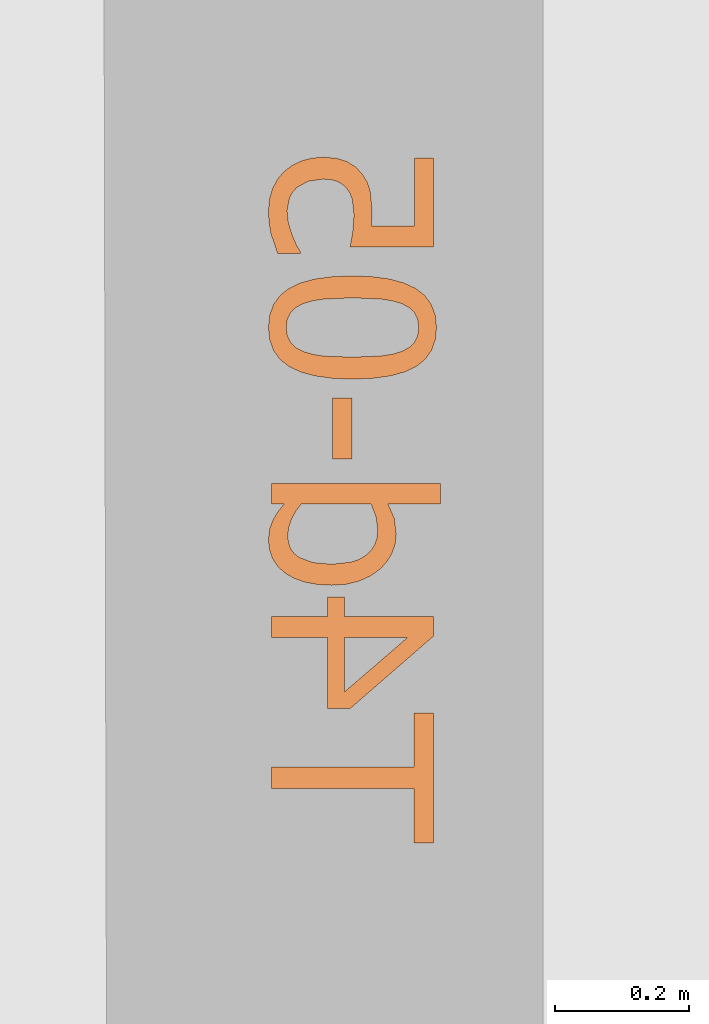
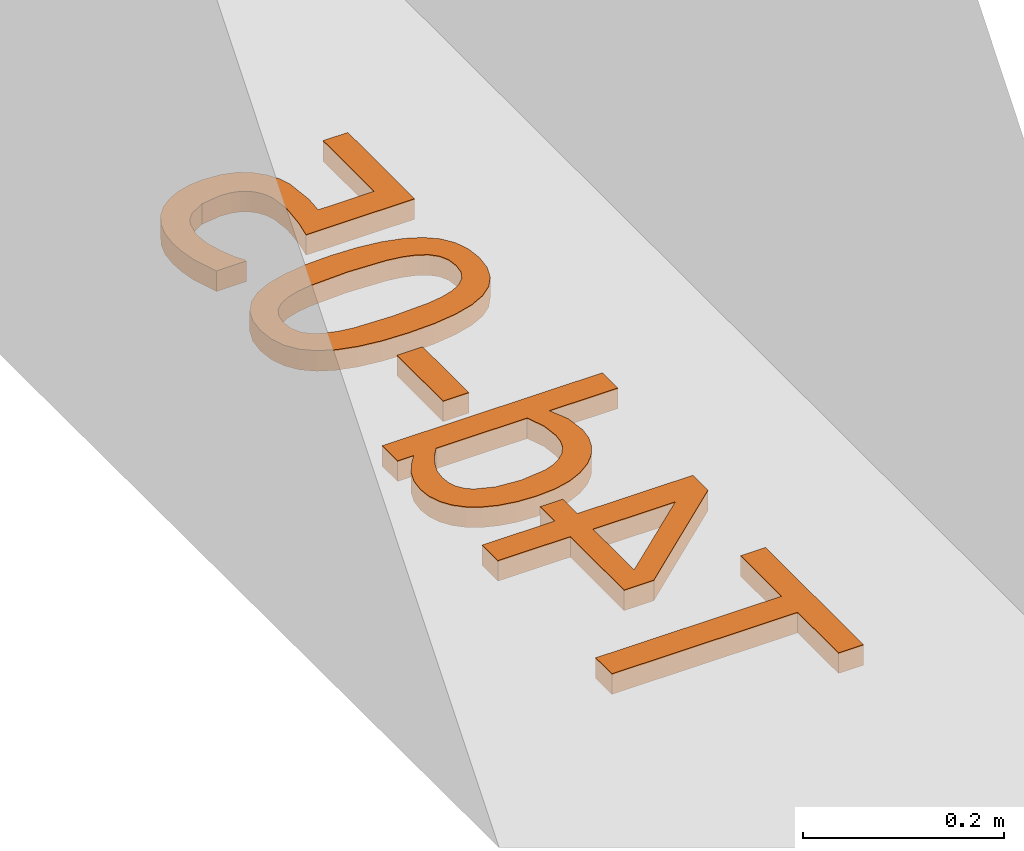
# Not in any storey, part 19 of 22: 1 proxy.
"""IFC4 model written with IfcOpenShell, lengths in metres."""

import ifcopenshell
import ifcopenshell.guid

model = None  # the IFC model being written
_history = None  # IfcOwnerHistory: only IFC2X3 demands one
_inside = {}  # id of a spatial element -> (the spatial element, [elements in it])
_under = {}  # id of a project, library or spatial element -> (it, [spatial elements below it])
_declared = {}  # id of a project -> (the project, [libraries it declares])
_typed = {}  # id of a type object -> (the type object, [elements of that type])
_made_of = {}  # id of a material, layer set ... -> (it, [elements and type objects made of it])


def new_model(schema):
    """Start an empty IFC model of exactly this schema.

    Asked for "IFC4X3", IfcOpenShell would pick the latest addendum, in which some entities
    have other attributes; the version numbers below select the first issue.
    IFC2X3 requires an IfcOwnerHistory on every rooted entity: one is made here for all.
    """
    global model, _history
    if schema == "IFC4X3":
        model = ifcopenshell.file(schema_version=(4, 3, 0, 0))
    else:
        model = ifcopenshell.file(schema=schema)
    _inside.clear()
    _under.clear()
    _declared.clear()
    _typed.clear()
    _made_of.clear()
    _history = None
    if model.schema == "IFC2X3":
        org = make("IfcOrganization", Name="unknown")
        user = make(
            "IfcPersonAndOrganization",
            ThePerson=make("IfcPerson", FamilyName="unknown"),
            TheOrganization=org,
        )
        app = make(
            "IfcApplication",
            ApplicationDeveloper=org,
            Version="unknown",
            ApplicationFullName="unknown",
            ApplicationIdentifier="unknown",
        )
        _history = make(
            "IfcOwnerHistory",
            OwningUser=user,
            OwningApplication=app,
            ChangeAction="ADDED",
            CreationDate=0,
        )
    return model


def make(cls, **values):
    """One entity of the class cls with the attributes given. An attribute that is None is left unset."""
    return model.create_entity(
        cls, **{name: value for name, value in values.items() if value is not None}
    )


def rooted(cls, **values):
    """An entity with a GlobalId (a new one), such as an element, a storey or a relation."""
    return make(cls, GlobalId=ifcopenshell.guid.new(), OwnerHistory=_history, **values)


def si_unit(unit_type, name, prefix=None):
    """IfcSIUnit, for example si_unit("LENGTHUNIT", "METRE", prefix="MILLI")."""
    return make("IfcSIUnit", UnitType=unit_type, Prefix=prefix, Name=name)


def assignment(units):
    """IfcUnitAssignment: the units of a project."""
    return None if units is None else make("IfcUnitAssignment", Units=units)


def point(xyz):
    """IfcCartesianPoint."""
    return None if xyz is None else make("IfcCartesianPoint", Coordinates=xyz)


def direction(xyz):
    """IfcDirection."""
    return None if xyz is None else make("IfcDirection", DirectionRatios=xyz)


def frame(location, z_axis=None, x_axis=None):
    """IfcAxis2Placement3D, a coordinate frame: its origin and axes. An axis left out is left unset."""
    return make(
        "IfcAxis2Placement3D",
        Location=point(location),
        Axis=direction(z_axis),
        RefDirection=direction(x_axis),
    )


def origin_with_axes():
    """The frame at (0, 0, 0) with the z axis (0, 0, 1) and the x axis (1, 0, 0) written out."""
    return frame((0.0, 0.0, 0.0), z_axis=(0.0, 0.0, 1.0), x_axis=(1.0, 0.0, 0.0))


def place(relative_to, where):
    """IfcLocalPlacement: puts the frame where relative to a parent placement (None: the world)."""
    return make(
        "IfcLocalPlacement", PlacementRelTo=relative_to, RelativePlacement=where
    )


def context(
    kind, dimensions, precision=None, world=None, true_north=None, identifier=None
):
    """IfcGeometricRepresentationContext, for example the 3D "Model" context."""
    return make(
        "IfcGeometricRepresentationContext",
        ContextIdentifier=identifier,
        ContextType=kind,
        CoordinateSpaceDimension=dimensions,
        Precision=precision,
        WorldCoordinateSystem=world,
        TrueNorth=true_north,
    )


def subcontext(parent, identifier, kind, view, scale=None):
    """IfcGeometricRepresentationSubContext, for example "Body" below "Model"."""
    return make(
        "IfcGeometricRepresentationSubContext",
        ContextIdentifier=identifier,
        ContextType=kind,
        ParentContext=parent,
        TargetScale=scale,
        TargetView=view,
    )


def project(units=None, contexts=None):
    """IfcProject with its units and contexts."""
    return rooted(
        "IfcProject",
        Name="project",
        RepresentationContexts=contexts,
        UnitsInContext=assignment(units),
    )


def faces_of(points, faces, orient=None, outer=None):
    """IfcFace entities. A face is a list of loops; a loop is a list of indices into points, from 0.

    orient and outer hold one flag for each loop. By default every Orientation is true, the
    first loop of a face is its IfcFaceOuterBound and the others are IfcFaceBound.
    """
    made = []
    for i, loops in enumerate(faces):
        bounds = []
        for j, loop in enumerate(loops):
            is_outer = j == 0 if outer is None else outer[i][j]
            bounds.append(
                make(
                    "IfcFaceOuterBound" if is_outer else "IfcFaceBound",
                    Bound=make("IfcPolyLoop", Polygon=[points[k] for k in loop]),
                    Orientation=True if orient is None else orient[i][j],
                )
            )
        made.append(make("IfcFace", Bounds=bounds))
    return made


def faceted_brep(points, faces, orient=None, outer=None, voids=None):
    """IfcFacetedBrep: a solid bounded by flat faces; with voids (closed shells), ...WithVoids."""
    shared = [point(p) for p in points]
    hull = make("IfcClosedShell", CfsFaces=faces_of(shared, faces, orient, outer))
    if voids is None:
        return make("IfcFacetedBrep", Outer=hull)
    return make(
        "IfcFacetedBrepWithVoids",
        Outer=hull,
        Voids=[
            make(cls, CfsFaces=faces_of(shared, fs, o, b)) for cls, fs, o, b in voids
        ],
    )


def shape(context_of_items, identifier, shape_type, items):
    """IfcShapeRepresentation: the items that make up one representation, for example the "Body"."""
    return make(
        "IfcShapeRepresentation",
        ContextOfItems=context_of_items,
        RepresentationIdentifier=identifier,
        RepresentationType=shape_type,
        Items=items,
    )


def made_of(thing, what):
    """Note that an element or type object is made of a material, layer set ...; save() writes the relation."""
    if what is not None:
        _made_of.setdefault(what.id(), (what, []))[1].append(thing)
    return thing


def element(
    cls,
    number,
    at=None,
    inside=None,
    cuts=None,
    type_object=None,
    material=None,
    context=None,
    identifier="Body",
    shape_type=None,
    held_by="IfcProductDefinitionShape",
    body=None,
    shapes=None,
    **own,
):
    """One element of the class cls, such as IfcWall. Its Tag is "e" and its number.

    at: its placement. inside: the storey or other place that contains it. cuts: it is an
    opening in that element (IfcRelVoidsElement). A single representation is given by context,
    identifier, shape_type and body (its items); several are given by shapes. held_by: the class
    of the entity that holds the representations. save() writes the other relations.
    """
    e = rooted(cls, Tag="e%d" % number, ObjectPlacement=at, **own)
    if body is not None:
        shapes = [shape(context, identifier, shape_type, body)]
    if shapes is not None:
        e.Representation = make(held_by, Representations=shapes)
    if inside is not None:
        _inside.setdefault(inside.id(), (inside, []))[1].append(e)
    if cuts is not None:
        rooted(
            "IfcRelVoidsElement", RelatingBuildingElement=cuts, RelatedOpeningElement=e
        )
    if type_object is not None:
        _typed.setdefault(type_object.id(), (type_object, []))[1].append(e)
    return made_of(e, material)


def aggregate(whole, parts):
    """IfcRelAggregates: a whole, such as a stair, and the parts it consists of."""
    return rooted("IfcRelAggregates", RelatingObject=whole, RelatedObjects=parts)


def save(model, path):
    """Write the relations noted so far, then the file.

    IfcRelAggregates (storeys below a building ...), IfcRelContainedInSpatialStructure (elements
    in a storey), IfcRelDefinesByType, IfcRelAssociatesMaterial and IfcRelDeclares: one each for
    every whole, place, type object, material and project.
    """
    for whole, parts in _under.values():
        aggregate(whole, parts)
    for where, things in _inside.values():
        rooted(
            "IfcRelContainedInSpatialStructure",
            RelatedElements=things,
            RelatingStructure=where,
        )
    for kind, things in _typed.values():
        rooted("IfcRelDefinesByType", RelatedObjects=things, RelatingType=kind)
    for what, things in _made_of.values():
        rooted("IfcRelAssociatesMaterial", RelatedObjects=things, RelatingMaterial=what)
    for by, libraries in _declared.values():
        rooted("IfcRelDeclares", RelatingContext=by, RelatedDefinitions=libraries)
    model.write(path)


model = new_model("IFC4")

# Units and contexts
model_context = context("Model", 3, precision=1e-05, world=origin_with_axes(), true_north=direction((1.0, 0.0)))
body_context = subcontext(model_context, "Body", "Model", "MODEL_VIEW")
ifc_project = project(units=[si_unit("LENGTHUNIT", "METRE"), si_unit("AREAUNIT", "SQUARE_METRE"), si_unit("VOLUMEUNIT", "CUBIC_METRE"), si_unit("MASSUNIT", "GRAM", prefix="KILO"), si_unit("TIMEUNIT", "SECOND"), si_unit("PLANEANGLEUNIT", "RADIAN"), si_unit("SOLIDANGLEUNIT", "STERADIAN")], contexts=[model_context])

# Proxy
proxy_placement = place(None, origin_with_axes())
element("IfcBuildingElementProxy", 1, at=proxy_placement, Name="Undefined", PredefinedType="NOTDEFINED", context=body_context, shape_type="AdvancedBrep", body=[
    faceted_brep([(153.331718, 26.553356, -0.05), (153.544682, 26.553356, -0.05), (153.544682, 26.472258, -0.05), (153.573229, 26.472258, -0.05), (153.573229, 26.66657, -0.05), (153.544682, 26.66657, -0.05), (153.544682, 26.585471, -0.05), (153.331718, 26.585471, -0.05), (153.414763, 26.839471, -0.05), (153.414763, 26.810762, -0.05), (153.331718, 26.810762, -0.05), (153.331718, 26.779621, -0.05), (153.414763, 26.779621, -0.05), (153.414763, 26.672895, -0.05), (153.448824, 26.672895, -0.05), (153.573229, 26.780918, -0.05), (153.573229, 26.810762, -0.05), (153.440714, 26.810762, -0.05), (153.440714, 26.839471, -0.05), (153.440714, 26.779621, -0.05), (153.535113, 26.779621, -0.05), (153.440714, 26.698198, -0.05), (153.331718, 27.009291, -0.05), (153.331718, 26.978798, -0.05), (153.350209, 26.978798, -0.05), (153.340315, 26.966471, -0.05), (153.333178, 26.954307, -0.05), (153.328393, 26.940844, -0.05), (153.32669, 26.924625, -0.05), (153.328231, 26.910412, -0.05), (153.332854, 26.897294, -0.05), (153.340436, 26.885677, -0.05), (153.350857, 26.875966, -0.05), (153.364259, 26.868058, -0.05), (153.380458, 26.862179, -0.05), (153.399374, 26.858529, -0.05), (153.420926, 26.857313, -0.05), (153.443168, 26.858854, -0.05), (153.462205, 26.863476, -0.05), (153.478526, 26.870816, -0.05), (153.492617, 26.880507, -0.05), (153.50318, 26.891435, -0.05), (153.511189, 26.904431, -0.05), (153.516237, 26.918806, -0.05), (153.51792, 26.93387, -0.05), (153.514919, 26.95755, -0.05), (153.505593, 26.978798, -0.05), (153.584096, 26.978798, -0.05), (153.584096, 27.009291, -0.05), (153.375836, 26.978798, -0.05), (153.48029, 26.978798, -0.05), (153.487914, 26.958443, -0.05), (153.490022, 26.938898, -0.05), (153.488922, 26.927777, -0.05), (153.485623, 26.917934, -0.05), (153.480123, 26.909368, -0.05), (153.472424, 26.902079, -0.05), (153.462646, 26.89626, -0.05), (153.450912, 26.892104, -0.05), (153.421575, 26.888779, -0.05), (153.393373, 26.891334, -0.05), (153.372673, 26.898997, -0.05), (153.365257, 26.904877, -0.05), (153.359961, 26.912298, -0.05), (153.356783, 26.921259, -0.05), (153.355723, 26.931761, -0.05), (153.357082, 26.943804, -0.05), (153.361157, 26.955928, -0.05), (153.367543, 26.967728, -0.05), (153.42271, 27.137427, -0.05), (153.42271, 27.045948, -0.05), (153.452068, 27.045948, -0.05), (153.452068, 27.137427, -0.05), (153.452555, 27.319898, -0.05), (153.422199, 27.318717, -0.05), (153.396171, 27.315174, -0.05), (153.374472, 27.309269, -0.05), (153.357102, 27.301002, -0.05), (153.343797, 27.290272, -0.05), (153.334293, 27.276977, -0.05), (153.328591, 27.261117, -0.05), (153.32669, 27.242692, -0.05), (153.328626, 27.22407, -0.05), (153.334435, 27.208104, -0.05), (153.344116, 27.194793, -0.05), (153.35767, 27.184139, -0.05), (153.375197, 27.175979, -0.05), (153.3968, 27.17015, -0.05), (153.422477, 27.166652, -0.05), (153.45223, 27.165487, -0.05), (153.482718, 27.166668, -0.05), (153.508817, 27.170211, -0.05), (153.530526, 27.176116, -0.05), (153.547845, 27.184383, -0.05), (153.561079, 27.195113, -0.05), (153.570532, 27.208408, -0.05), (153.576204, 27.224268, -0.05), (153.578095, 27.242692, -0.05), (153.576138, 27.261314, -0.05), (153.570269, 27.277281, -0.05), (153.560486, 27.290591, -0.05), (153.546791, 27.301245, -0.05), (153.529162, 27.309406, -0.05), (153.50758, 27.315235, -0.05), (153.482044, 27.318732, -0.05), (153.378917, 27.278375, -0.05), (153.392501, 27.28239, -0.05), (153.409248, 27.285026, -0.05), (153.452555, 27.286972, -0.05), (153.495699, 27.285026, -0.05), (153.512486, 27.282349, -0.05), (153.526192, 27.278213, -0.05), (153.537039, 27.272435, -0.05), (153.544926, 27.264832, -0.05), (153.549731, 27.255039, -0.05), (153.551332, 27.242692, -0.05), (153.549731, 27.230426, -0.05), (153.544926, 27.220552, -0.05), (153.536958, 27.212787, -0.05), (153.525868, 27.206847, -0.05), (153.511919, 27.202751, -0.05), (153.494726, 27.200197, -0.05), (153.45223, 27.198413, -0.05), (153.409897, 27.199953, -0.05), (153.393758, 27.202407, -0.05), (153.379404, 27.206685, -0.05), (153.368354, 27.212382, -0.05), (153.360184, 27.220066, -0.05), (153.355135, 27.230061, -0.05), (153.353452, 27.242692, -0.05), (153.355054, 27.254958, -0.05), (153.359859, 27.264832, -0.05), (153.367827, 27.272557, -0.05), (153.408599, 27.497341, -0.05), (153.391731, 27.495942, -0.05), (153.37616, 27.491745, -0.05), (153.362252, 27.485034, -0.05), (153.350371, 27.476093, -0.05), (153.340517, 27.464638, -0.05), (153.333016, 27.450709, -0.05), (153.328271, 27.434632, -0.05), (153.32669, 27.416729, -0.05), (153.327643, 27.399516, -0.05), (153.330502, 27.382587, -0.05), (153.340477, 27.353473, -0.05), (153.3747, 27.353473, -0.05), (153.3747, 27.355743, -0.05), (153.368456, 27.366448, -0.05), (153.361887, 27.381857, -0.05), (153.356615, 27.399374, -0.05), (153.35475, 27.417216, -0.05), (153.358237, 27.436193, -0.05), (153.362799, 27.444789, -0.05), (153.36951, 27.452088, -0.05), (153.386216, 27.461252, -0.05), (153.408762, 27.464415, -0.05), (153.42044, 27.463543, -0.05), (153.429847, 27.460928, -0.05), (153.437389, 27.45665, -0.05), (153.443472, 27.450791, -0.05), (153.448723, 27.443025, -0.05), (153.452149, 27.433679, -0.05), (153.454663, 27.411052, -0.05), (153.452636, 27.384614, -0.05), (153.448824, 27.363367, -0.05), (153.573229, 27.363367, -0.05), (153.573229, 27.495881, -0.05), (153.544845, 27.495881, -0.05), (153.544845, 27.394671, -0.05), (153.480615, 27.394671, -0.05), (153.481588, 27.406186, -0.05), (153.481912, 27.416567, -0.05), (153.478831, 27.447871, -0.05), (153.474289, 27.460441, -0.05), (153.466828, 27.472525, -0.05), (153.45661, 27.483129, -0.05), (153.44412, 27.490934, -0.05), (153.428428, 27.495739, -0.05), (153.544682, 26.553356, -0.075), (153.331718, 26.553356, -0.075), (153.331718, 26.585471, -0.075), (153.544682, 26.585471, -0.075), (153.544682, 26.66657, -0.075), (153.573229, 26.66657, -0.075), (153.573229, 26.472258, -0.075), (153.544682, 26.472258, -0.075), (153.414763, 26.810762, -0.075), (153.414763, 26.839471, -0.075), (153.440714, 26.839471, -0.075), (153.440714, 26.810762, -0.075), (153.573229, 26.810762, -0.075), (153.573229, 26.780918, -0.075), (153.448824, 26.672895, -0.075), (153.414763, 26.672895, -0.075), (153.414763, 26.779621, -0.075), (153.331718, 26.779621, -0.075), (153.331718, 26.810762, -0.075), (153.535113, 26.779621, -0.075), (153.440714, 26.779621, -0.075), (153.440714, 26.698198, -0.075), (153.331718, 26.978798, -0.075), (153.331718, 27.009291, -0.075), (153.584096, 27.009291, -0.075), (153.584096, 26.978798, -0.075), (153.505593, 26.978798, -0.075), (153.514919, 26.95755, -0.075), (153.51792, 26.93387, -0.075), (153.516237, 26.918806, -0.075), (153.511189, 26.904431, -0.075), (153.50318, 26.891435, -0.075), (153.492617, 26.880507, -0.075), (153.478526, 26.870816, -0.075), (153.462205, 26.863476, -0.075), (153.443168, 26.858854, -0.075), (153.420926, 26.857313, -0.075), (153.399374, 26.858529, -0.075), (153.380458, 26.862179, -0.075), (153.364259, 26.868058, -0.075), (153.350857, 26.875966, -0.075), (153.340436, 26.885677, -0.075), (153.332854, 26.897294, -0.075), (153.328231, 26.910412, -0.075), (153.32669, 26.924625, -0.075), (153.328393, 26.940844, -0.075), (153.333178, 26.954307, -0.075), (153.340315, 26.966471, -0.075), (153.350209, 26.978798, -0.075), (153.48029, 26.978798, -0.075), (153.375836, 26.978798, -0.075), (153.367543, 26.967728, -0.075), (153.361157, 26.955928, -0.075), (153.357082, 26.943804, -0.075), (153.355723, 26.931761, -0.075), (153.356783, 26.921259, -0.075), (153.359961, 26.912298, -0.075), (153.365257, 26.904877, -0.075), (153.372673, 26.898997, -0.075), (153.393373, 26.891334, -0.075), (153.421575, 26.888779, -0.075), (153.450912, 26.892104, -0.075), (153.462646, 26.89626, -0.075), (153.472424, 26.902079, -0.075), (153.480123, 26.909368, -0.075), (153.485623, 26.917934, -0.075), (153.488922, 26.927777, -0.075), (153.490022, 26.938898, -0.075), (153.487914, 26.958443, -0.075), (153.42271, 27.045948, -0.075), (153.42271, 27.137427, -0.075), (153.452068, 27.137427, -0.075), (153.452068, 27.045948, -0.075), (153.422199, 27.318717, -0.075), (153.452555, 27.319898, -0.075), (153.482044, 27.318732, -0.075), (153.50758, 27.315235, -0.075), (153.529162, 27.309406, -0.075), (153.546791, 27.301245, -0.075), (153.560486, 27.290591, -0.075), (153.570269, 27.277281, -0.075), (153.576138, 27.261314, -0.075), (153.578095, 27.242692, -0.075), (153.576204, 27.224268, -0.075), (153.570532, 27.208408, -0.075), (153.561079, 27.195113, -0.075), (153.547845, 27.184383, -0.075), (153.530526, 27.176116, -0.075), (153.508817, 27.170211, -0.075), (153.482718, 27.166668, -0.075), (153.45223, 27.165487, -0.075), (153.422477, 27.166652, -0.075), (153.3968, 27.17015, -0.075), (153.375197, 27.175979, -0.075), (153.35767, 27.184139, -0.075), (153.344116, 27.194793, -0.075), (153.334435, 27.208104, -0.075), (153.328626, 27.22407, -0.075), (153.32669, 27.242692, -0.075), (153.328591, 27.261117, -0.075), (153.334293, 27.276977, -0.075), (153.343797, 27.290272, -0.075), (153.357102, 27.301002, -0.075), (153.374472, 27.309269, -0.075), (153.396171, 27.315174, -0.075), (153.392501, 27.28239, -0.075), (153.378917, 27.278375, -0.075), (153.367827, 27.272557, -0.075), (153.359859, 27.264832, -0.075), (153.355054, 27.254958, -0.075), (153.353452, 27.242692, -0.075), (153.355135, 27.230061, -0.075), (153.360184, 27.220066, -0.075), (153.368354, 27.212382, -0.075), (153.379404, 27.206685, -0.075), (153.393758, 27.202407, -0.075), (153.409897, 27.199953, -0.075), (153.45223, 27.198413, -0.075), (153.494726, 27.200197, -0.075), (153.511919, 27.202751, -0.075), (153.525868, 27.206847, -0.075), (153.536958, 27.212787, -0.075), (153.544926, 27.220552, -0.075), (153.549731, 27.230426, -0.075), (153.551332, 27.242692, -0.075), (153.549731, 27.255039, -0.075), (153.544926, 27.264832, -0.075), (153.537039, 27.272435, -0.075), (153.526192, 27.278213, -0.075), (153.512486, 27.282349, -0.075), (153.495699, 27.285026, -0.075), (153.452555, 27.286972, -0.075), (153.409248, 27.285026, -0.075), (153.391731, 27.495942, -0.075), (153.408599, 27.497341, -0.075), (153.428428, 27.495739, -0.075), (153.44412, 27.490934, -0.075), (153.45661, 27.483129, -0.075), (153.466828, 27.472525, -0.075), (153.474289, 27.460441, -0.075), (153.478831, 27.447871, -0.075), (153.481912, 27.416567, -0.075), (153.481588, 27.406186, -0.075), (153.480615, 27.394671, -0.075), (153.544845, 27.394671, -0.075), (153.544845, 27.495881, -0.075), (153.573229, 27.495881, -0.075), (153.573229, 27.363367, -0.075), (153.448824, 27.363367, -0.075), (153.452636, 27.384614, -0.075), (153.454663, 27.411052, -0.075), (153.452149, 27.433679, -0.075), (153.448723, 27.443025, -0.075), (153.443472, 27.450791, -0.075), (153.437389, 27.45665, -0.075), (153.429847, 27.460928, -0.075), (153.42044, 27.463543, -0.075), (153.408762, 27.464415, -0.075), (153.386216, 27.461252, -0.075), (153.36951, 27.452088, -0.075), (153.362799, 27.444789, -0.075), (153.358237, 27.436193, -0.075), (153.35475, 27.417216, -0.075), (153.356615, 27.399374, -0.075), (153.361887, 27.381857, -0.075), (153.368456, 27.366448, -0.075), (153.3747, 27.355743, -0.075), (153.3747, 27.353473, -0.075), (153.340477, 27.353473, -0.075), (153.330502, 27.382587, -0.075), (153.327643, 27.399516, -0.075), (153.32669, 27.416729, -0.075), (153.328271, 27.434632, -0.075), (153.333016, 27.450709, -0.075), (153.340517, 27.464638, -0.075), (153.350371, 27.476093, -0.075), (153.362252, 27.485034, -0.075), (153.37616, 27.491745, -0.075)], [[[0, 1, 2, 3, 4, 5, 6, 7]], [[8, 9, 10, 11, 12, 13, 14, 15, 16, 17, 18], [19, 20, 21]], [[22, 23, 24, 25, 26, 27, 28, 29, 30, 31, 32, 33, 34, 35, 36, 37, 38, 39, 40, 41, 42, 43, 44, 45, 46, 47, 48], [49, 50, 51, 52, 53, 54, 55, 56, 57, 58, 59, 60, 61, 62, 63, 64, 65, 66, 67, 68]], [[69, 70, 71, 72]], [[73, 74, 75, 76, 77, 78, 79, 80, 81, 82, 83, 84, 85, 86, 87, 88, 89, 90, 91, 92, 93, 94, 95, 96, 97, 98, 99, 100, 101, 102, 103, 104], [105, 106, 107, 108, 109, 110, 111, 112, 113, 114, 115, 116, 117, 118, 119, 120, 121, 122, 123, 124, 125, 126, 127, 128, 129, 130, 131, 132]], [[133, 134, 135, 136, 137, 138, 139, 140, 141, 142, 143, 144, 145, 146, 147, 148, 149, 150, 151, 152, 153, 154, 155, 156, 157, 158, 159, 160, 161, 162, 163, 164, 165, 166, 167, 168, 169, 170, 171, 172, 173, 174, 175, 176, 177]], [[178, 179, 180, 181, 182, 183, 184, 185]], [[1, 0, 179, 178]], [[2, 1, 178, 185]], [[3, 2, 185, 184]], [[4, 3, 184, 183]], [[5, 4, 183, 182]], [[6, 5, 182, 181]], [[7, 6, 181, 180]], [[0, 7, 180, 179]], [[186, 187, 188, 189, 190, 191, 192, 193, 194, 195, 196], [197, 198, 199]], [[9, 8, 187, 186]], [[10, 9, 186, 196]], [[11, 10, 196, 195]], [[12, 11, 195, 194]], [[13, 12, 194, 193]], [[14, 13, 193, 192]], [[15, 14, 192, 191]], [[16, 15, 191, 190]], [[17, 16, 190, 189]], [[18, 17, 189, 188]], [[8, 18, 188, 187]], [[20, 19, 198, 197]], [[21, 20, 197, 199]], [[19, 21, 199, 198]], [[200, 201, 202, 203, 204, 205, 206, 207, 208, 209, 210, 211, 212, 213, 214, 215, 216, 217, 218, 219, 220, 221, 222, 223, 224, 225, 226], [227, 228, 229, 230, 231, 232, 233, 234, 235, 236, 237, 238, 239, 240, 241, 242, 243, 244, 245, 246]], [[23, 22, 201, 200]], [[24, 23, 200, 226]], [[25, 24, 226, 225]], [[26, 25, 225, 224]], [[27, 26, 224, 223]], [[28, 27, 223, 222]], [[29, 28, 222, 221]], [[30, 29, 221, 220]], [[31, 30, 220, 219]], [[32, 31, 219, 218]], [[33, 32, 218, 217]], [[34, 33, 217, 216]], [[35, 34, 216, 215]], [[36, 35, 215, 214]], [[37, 36, 214, 213]], [[38, 37, 213, 212]], [[39, 38, 212, 211]], [[40, 39, 211, 210]], [[41, 40, 210, 209]], [[42, 41, 209, 208]], [[43, 42, 208, 207]], [[44, 43, 207, 206]], [[45, 44, 206, 205]], [[46, 45, 205, 204]], [[47, 46, 204, 203]], [[48, 47, 203, 202]], [[22, 48, 202, 201]], [[50, 49, 228, 227]], [[51, 50, 227, 246]], [[52, 51, 246, 245]], [[53, 52, 245, 244]], [[54, 53, 244, 243]], [[55, 54, 243, 242]], [[56, 55, 242, 241]], [[57, 56, 241, 240]], [[58, 57, 240, 239]], [[59, 58, 239, 238]], [[60, 59, 238, 237]], [[61, 60, 237, 236]], [[62, 61, 236, 235]], [[63, 62, 235, 234]], [[64, 63, 234, 233]], [[65, 64, 233, 232]], [[66, 65, 232, 231]], [[67, 66, 231, 230]], [[68, 67, 230, 229]], [[49, 68, 229, 228]], [[247, 248, 249, 250]], [[70, 69, 248, 247]], [[71, 70, 247, 250]], [[72, 71, 250, 249]], [[69, 72, 249, 248]], [[251, 252, 253, 254, 255, 256, 257, 258, 259, 260, 261, 262, 263, 264, 265, 266, 267, 268, 269, 270, 271, 272, 273, 274, 275, 276, 277, 278, 279, 280, 281, 282], [283, 284, 285, 286, 287, 288, 289, 290, 291, 292, 293, 294, 295, 296, 297, 298, 299, 300, 301, 302, 303, 304, 305, 306, 307, 308, 309, 310]], [[74, 73, 252, 251]], [[75, 74, 251, 282]], [[76, 75, 282, 281]], [[77, 76, 281, 280]], [[78, 77, 280, 279]], [[79, 78, 279, 278]], [[80, 79, 278, 277]], [[81, 80, 277, 276]], [[82, 81, 276, 275]], [[83, 82, 275, 274]], [[84, 83, 274, 273]], [[85, 84, 273, 272]], [[86, 85, 272, 271]], [[87, 86, 271, 270]], [[88, 87, 270, 269]], [[89, 88, 269, 268]], [[90, 89, 268, 267]], [[91, 90, 267, 266]], [[92, 91, 266, 265]], [[93, 92, 265, 264]], [[94, 93, 264, 263]], [[95, 94, 263, 262]], [[96, 95, 262, 261]], [[97, 96, 261, 260]], [[98, 97, 260, 259]], [[99, 98, 259, 258]], [[100, 99, 258, 257]], [[101, 100, 257, 256]], [[102, 101, 256, 255]], [[103, 102, 255, 254]], [[104, 103, 254, 253]], [[73, 104, 253, 252]], [[106, 105, 284, 283]], [[107, 106, 283, 310]], [[108, 107, 310, 309]], [[109, 108, 309, 308]], [[110, 109, 308, 307]], [[111, 110, 307, 306]], [[112, 111, 306, 305]], [[113, 112, 305, 304]], [[114, 113, 304, 303]], [[115, 114, 303, 302]], [[116, 115, 302, 301]], [[117, 116, 301, 300]], [[118, 117, 300, 299]], [[119, 118, 299, 298]], [[120, 119, 298, 297]], [[121, 120, 297, 296]], [[122, 121, 296, 295]], [[123, 122, 295, 294]], [[124, 123, 294, 293]], [[125, 124, 293, 292]], [[126, 125, 292, 291]], [[127, 126, 291, 290]], [[128, 127, 290, 289]], [[129, 128, 289, 288]], [[130, 129, 288, 287]], [[131, 130, 287, 286]], [[132, 131, 286, 285]], [[105, 132, 285, 284]], [[311, 312, 313, 314, 315, 316, 317, 318, 319, 320, 321, 322, 323, 324, 325, 326, 327, 328, 329, 330, 331, 332, 333, 334, 335, 336, 337, 338, 339, 340, 341, 342, 343, 344, 345, 346, 347, 348, 349, 350, 351, 352, 353, 354, 355]], [[134, 133, 312, 311]], [[135, 134, 311, 355]], [[136, 135, 355, 354]], [[137, 136, 354, 353]], [[138, 137, 353, 352]], [[139, 138, 352, 351]], [[140, 139, 351, 350]], [[141, 140, 350, 349]], [[142, 141, 349, 348]], [[143, 142, 348, 347]], [[144, 143, 347, 346]], [[145, 144, 346, 345]], [[146, 145, 345, 344]], [[147, 146, 344, 343]], [[148, 147, 343, 342]], [[149, 148, 342, 341]], [[150, 149, 341, 340]], [[151, 150, 340, 339]], [[152, 151, 339, 338]], [[153, 152, 338, 337]], [[154, 153, 337, 336]], [[155, 154, 336, 335]], [[156, 155, 335, 334]], [[157, 156, 334, 333]], [[158, 157, 333, 332]], [[159, 158, 332, 331]], [[160, 159, 331, 330]], [[161, 160, 330, 329]], [[162, 161, 329, 328]], [[163, 162, 328, 327]], [[164, 163, 327, 326]], [[165, 164, 326, 325]], [[166, 165, 325, 324]], [[167, 166, 324, 323]], [[168, 167, 323, 322]], [[169, 168, 322, 321]], [[170, 169, 321, 320]], [[171, 170, 320, 319]], [[172, 171, 319, 318]], [[173, 172, 318, 317]], [[174, 173, 317, 316]], [[175, 174, 316, 315]], [[176, 175, 315, 314]], [[177, 176, 314, 313]], [[133, 177, 313, 312]]]),
])

save(model, "model.ifc")
